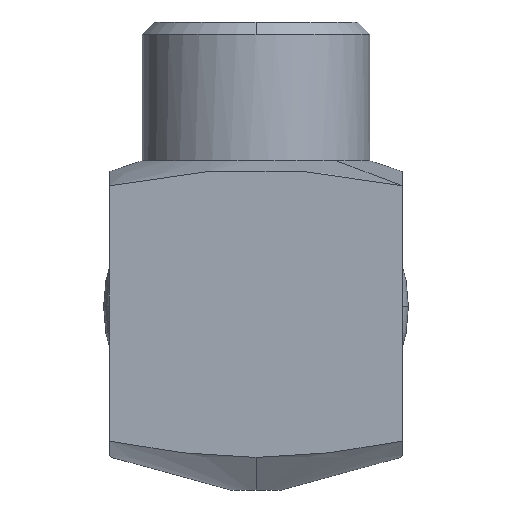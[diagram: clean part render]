
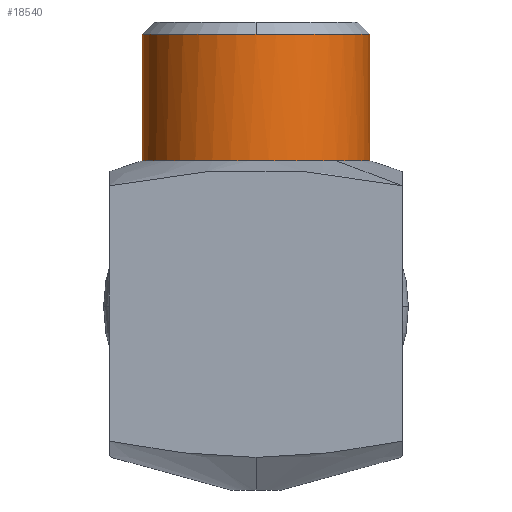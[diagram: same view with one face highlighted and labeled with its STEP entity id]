
A CAD part, left-side view. The second image highlights one B-rep face of the part: STEP entity #18540.
In plain terms, the highlighted cylindrical face has radius 14 mm (diameter 28 mm), a partial arc.
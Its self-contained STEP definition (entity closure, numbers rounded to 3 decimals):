
#17830=CARTESIAN_POINT('',(-404.306,59.173,
17.937));
#17840=DIRECTION('',(0.,0.,-1.));
#17850=DIRECTION('',(-0.707,0.707,0.));
#17860=AXIS2_PLACEMENT_3D('',#17830,#17840,#17850);
#17870=CIRCLE('',#17860,14.);
#17900=CARTESIAN_POINT('',(-418.306,59.173,
17.937));
#17910=VERTEX_POINT('',#17900);
#18060=CARTESIAN_POINT('',(-414.206,69.073,
17.937));
#18070=VERTEX_POINT('',#18060);
#18100=EDGE_CURVE('',#17910,#18070,#17870,.T.);
#18150=CARTESIAN_POINT('',(-404.306,59.173,
34.999));
#18160=DIRECTION('',(0.,0.,1.));
#18170=DIRECTION('',(1.,0.,0.));
#18180=AXIS2_PLACEMENT_3D('',#18150,#18160,#18170);
#18190=CYLINDRICAL_SURFACE('',#18180,14.);
#18200=CARTESIAN_POINT('',(-390.306,59.173,
17.937));
#18210=VERTEX_POINT('',#18200);
#18220=EDGE_CURVE('',#18070,#18210,#17870,.T.);
#18230=ORIENTED_EDGE('',*,*,#18220,.F.);
#18240=CARTESIAN_POINT('',(-390.306,59.173,
34.999));
#18250=DIRECTION('',(0.,0.,1.));
#18260=VECTOR('',#18250,1.);
#18270=LINE('',#18240,#18260);
#18280=CARTESIAN_POINT('',(-390.306,59.173,
33.499));
#18290=VERTEX_POINT('',#18280);
#18300=EDGE_CURVE('',#18210,#18290,#18270,.T.);
#18310=ORIENTED_EDGE('',*,*,#18300,.F.);
#18320=CARTESIAN_POINT('',(-404.306,59.173,
33.499));
#18330=DIRECTION('',(0.,0.,1.));
#18340=DIRECTION('',(0.,-1.,0.));
#18350=AXIS2_PLACEMENT_3D('',#18320,#18330,#18340);
#18360=CIRCLE('',#18350,14.);
#18370=CARTESIAN_POINT('',(-404.306,73.173,
33.499));
#18380=VERTEX_POINT('',#18370);
#18390=EDGE_CURVE('',#18290,#18380,#18360,.T.);
#18400=ORIENTED_EDGE('',*,*,#18390,.F.);
#18410=CARTESIAN_POINT('',(-418.306,59.173,
33.499));
#18420=VERTEX_POINT('',#18410);
#18430=EDGE_CURVE('',#18380,#18420,#18360,.T.);
#18440=ORIENTED_EDGE('',*,*,#18430,.F.);
#18450=CARTESIAN_POINT('',(-418.306,59.173,
34.999));
#18460=DIRECTION('',(0.,0.,1.));
#18470=VECTOR('',#18460,1.);
#18480=LINE('',#18450,#18470);
#18490=EDGE_CURVE('',#17910,#18420,#18480,.T.);
#18500=ORIENTED_EDGE('',*,*,#18490,.T.);
#18510=ORIENTED_EDGE('',*,*,#18100,.F.);
#18520=EDGE_LOOP('',(#18510,#18500,#18440,#18400,#18310,#18230));
#18530=FACE_OUTER_BOUND('',#18520,.T.);
#18540=ADVANCED_FACE('',(#18530),#18190,.T.);
